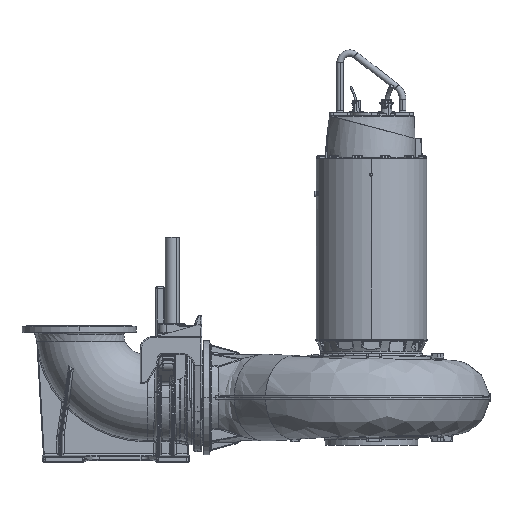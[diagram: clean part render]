
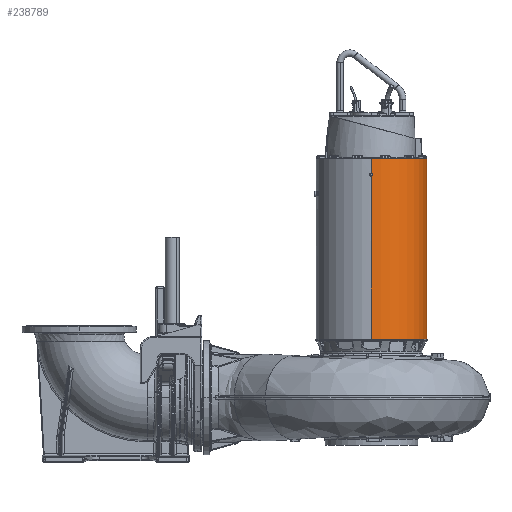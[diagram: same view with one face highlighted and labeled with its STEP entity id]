
A CAD part, top view. The second image highlights one B-rep face of the part: STEP entity #238789.
In plain terms, the highlighted cylindrical face has radius 344 mm (diameter 688 mm), a partial arc.
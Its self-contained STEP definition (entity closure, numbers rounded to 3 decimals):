
#188 = ORIENTED_EDGE ( 'NONE', *, *, #38782, .T. ) ;
#3723 = EDGE_LOOP ( 'NONE', ( #36963, #5620, #152010, #188, #55342, #262730, #307131, #35356, #45264, #235392, #141255, #134005 ) ) ;
#4071 = DIRECTION ( 'NONE',  ( 0., -1., 0. ) ) ;
#5620 = ORIENTED_EDGE ( 'NONE', *, *, #142774, .T. ) ;
#6485 = LINE ( 'NONE', #28939, #73659 ) ;
#7946 = CARTESIAN_POINT ( 'NONE',  ( 0., 0., 344. ) ) ;
#12411 = EDGE_CURVE ( 'NONE', #55287, #132726, #120263, .T. ) ;
#17241 = CARTESIAN_POINT ( 'NONE',  ( 9.5, 1010.485, 343.869 ) ) ;
#24232 =( BOUNDED_CURVE ( )  B_SPLINE_CURVE ( 3, ( #293533, #117481, #318775, #168203 ),
 .UNSPECIFIED., .F., .F. ) 
 B_SPLINE_CURVE_WITH_KNOTS ( ( 4, 4 ),
 ( 1.543, 1.571 ),
 .UNSPECIFIED. ) 
 CURVE ( )  GEOMETRIC_REPRESENTATION_ITEM ( )  RATIONAL_B_SPLINE_CURVE ( ( 1., 1., 1., 1. ) ) 
 REPRESENTATION_ITEM ( '' )  );
#28939 = CARTESIAN_POINT ( 'NONE',  ( 0., 0., -344. ) ) ;
#29441 = CARTESIAN_POINT ( 'NONE',  ( 0., 0., 0. ) ) ;
#31435 = DIRECTION ( 'NONE',  ( 0., -1., 0. ) ) ;
#34219 =( BOUNDED_CURVE ( )  B_SPLINE_CURVE ( 3, ( #293747, #117684, #168404, #17241 ),
 .UNSPECIFIED., .F., .T. ) 
 B_SPLINE_CURVE_WITH_KNOTS ( ( 4, 4 ),
 ( 1.571, 1.598 ),
 .UNSPECIFIED. ) 
 CURVE ( )  GEOMETRIC_REPRESENTATION_ITEM ( )  RATIONAL_B_SPLINE_CURVE ( ( 1., 1., 1., 1. ) ) 
 REPRESENTATION_ITEM ( '' )  );
#35356 = ORIENTED_EDGE ( 'NONE', *, *, #127925, .F. ) ;
#36963 = ORIENTED_EDGE ( 'NONE', *, *, #180242, .T. ) ;
#38643 = CARTESIAN_POINT ( 'NONE',  ( 9.5, 1245.349, -343.869 ) ) ;
#38782 = EDGE_CURVE ( 'NONE', #258541, #272611, #236190, .T. ) ;
#42527 = CARTESIAN_POINT ( 'NONE',  ( 6.334, 997.687, -343.956 ) ) ;
#42961 = VECTOR ( 'NONE', #84644, 1000. ) ;
#45264 = ORIENTED_EDGE ( 'NONE', *, *, #193572, .F. ) ;
#47926 = CARTESIAN_POINT ( 'NONE',  ( 0., -20., 344. ) ) ;
#55287 = VERTEX_POINT ( 'NONE', #132977 ) ;
#55342 = ORIENTED_EDGE ( 'NONE', *, *, #126497, .T. ) ;
#64069 = DIRECTION ( 'NONE',  ( 0., -1., 0. ) ) ;
#66839 = VERTEX_POINT ( 'NONE', #146464 ) ;
#67911 = CARTESIAN_POINT ( 'NONE',  ( 3.167, 995.859, -344. ) ) ;
#73659 = VECTOR ( 'NONE', #81809, 1000. ) ;
#81809 = DIRECTION ( 'NONE',  ( 0., -1., 0. ) ) ;
#84644 = DIRECTION ( 'NONE',  ( 0., -1., 0. ) ) ;
#88822 = CARTESIAN_POINT ( 'NONE',  ( 9.5, 999.515, -343.869 ) ) ;
#89455 = CYLINDRICAL_SURFACE ( 'NONE', #171399, 344. ) ;
#90931 = DIRECTION ( 'NONE',  ( 0., -1., 0. ) ) ;
#113233 = CARTESIAN_POINT ( 'NONE',  ( 0., 0., 344. ) ) ;
#113389 = VERTEX_POINT ( 'NONE', #322804 ) ;
#117481 = CARTESIAN_POINT ( 'NONE',  ( 6.334, 997.687, 343.956 ) ) ;
#117684 = CARTESIAN_POINT ( 'NONE',  ( 3.167, 1014.141, 344. ) ) ;
#118711 = CARTESIAN_POINT ( 'NONE',  ( 0., 1105., 344. ) ) ;
#120263 = CIRCLE ( 'NONE', #221599, 344. ) ;
#125448 = DIRECTION ( 'NONE',  ( 0., -1., 0. ) ) ;
#126497 = EDGE_CURVE ( 'NONE', #272611, #113389, #24232, .T. ) ;
#127925 = EDGE_CURVE ( 'NONE', #284557, #55287, #179066, .T. ) ;
#130983 = DIRECTION ( 'NONE',  ( 0., 0., -1. ) ) ;
#131335 =( BOUNDED_CURVE ( )  B_SPLINE_CURVE ( 3, ( #261241, #286542, #311726, #161168 ),
 .UNSPECIFIED., .F., .T. ) 
 B_SPLINE_CURVE_WITH_KNOTS ( ( 4, 4 ),
 ( 1.571, 1.598 ),
 .UNSPECIFIED. ) 
 CURVE ( )  GEOMETRIC_REPRESENTATION_ITEM ( )  RATIONAL_B_SPLINE_CURVE ( ( 1., 1., 1., 1. ) ) 
 REPRESENTATION_ITEM ( '' )  );
#132726 = VERTEX_POINT ( 'NONE', #47926 ) ;
#132977 = CARTESIAN_POINT ( 'NONE',  ( 0., -20., -344. ) ) ;
#133765 = DIRECTION ( 'NONE',  ( 0., -1., 0. ) ) ;
#134005 = ORIENTED_EDGE ( 'NONE', *, *, #306902, .F. ) ;
#139722 = DIRECTION ( 'NONE',  ( 0., -1., 0. ) ) ;
#141255 = ORIENTED_EDGE ( 'NONE', *, *, #148126, .F. ) ;
#141668 = CARTESIAN_POINT ( 'NONE',  ( 0., 0., -344. ) ) ;
#142774 = EDGE_CURVE ( 'NONE', #248330, #171833, #306793, .T. ) ;
#146464 = CARTESIAN_POINT ( 'NONE',  ( 0., 1015.97, -344. ) ) ;
#148126 = EDGE_CURVE ( 'NONE', #66839, #222882, #131335, .T. ) ;
#151565 = CARTESIAN_POINT ( 'NONE',  ( 9.5, 999.515, 343.869 ) ) ;
#152010 = ORIENTED_EDGE ( 'NONE', *, *, #178536, .T. ) ;
#161168 = CARTESIAN_POINT ( 'NONE',  ( 9.5, 1010.485, -343.869 ) ) ;
#168203 = CARTESIAN_POINT ( 'NONE',  ( 0., 994.03, 344. ) ) ;
#168404 = CARTESIAN_POINT ( 'NONE',  ( 6.334, 1012.313, 343.956 ) ) ;
#171399 = AXIS2_PLACEMENT_3D ( 'NONE', #29441, #4071, #130983 ) ;
#171833 = VERTEX_POINT ( 'NONE', #184225 ) ;
#173075 = VECTOR ( 'NONE', #139722, 1000. ) ;
#177792 = EDGE_CURVE ( 'NONE', #222882, #254369, #292314, .T. ) ;
#178536 = EDGE_CURVE ( 'NONE', #171833, #258541, #34219, .T. ) ;
#179066 = LINE ( 'NONE', #141668, #304904 ) ;
#180242 = EDGE_CURVE ( 'NONE', #268146, #248330, #256722, .T. ) ;
#180765 = AXIS2_PLACEMENT_3D ( 'NONE', #182597, #31435, #207806 ) ;
#182597 = CARTESIAN_POINT ( 'NONE',  ( 0., 1105., 0. ) ) ;
#184106 = VECTOR ( 'NONE', #133765, 1000. ) ;
#184225 = CARTESIAN_POINT ( 'NONE',  ( 0., 1015.97, 344. ) ) ;
#191091 = CARTESIAN_POINT ( 'NONE',  ( 9.5, 1010.485, 343.869 ) ) ;
#192000 = LINE ( 'NONE', #7946, #184106 ) ;
#193572 = EDGE_CURVE ( 'NONE', #254369, #284557, #245428, .T. ) ;
#207806 = DIRECTION ( 'NONE',  ( 0., 0., -1. ) ) ;
#221599 = AXIS2_PLACEMENT_3D ( 'NONE', #276220, #125448, #301430 ) ;
#222882 = VERTEX_POINT ( 'NONE', #258378 ) ;
#225513 = VECTOR ( 'NONE', #64069, 1000. ) ;
#235392 = ORIENTED_EDGE ( 'NONE', *, *, #177792, .F. ) ;
#235601 = CARTESIAN_POINT ( 'NONE',  ( 9.5, 1245.349, 343.869 ) ) ;
#236190 = LINE ( 'NONE', #235601, #42961 ) ;
#238789 = ADVANCED_FACE ( 'NONE', ( #247201 ), #89455, .T. ) ;
#244225 = CARTESIAN_POINT ( 'NONE',  ( 0., 994.03, -344. ) ) ;
#245428 =( BOUNDED_CURVE ( )  B_SPLINE_CURVE ( 3, ( #268417, #42527, #67911, #244225 ),
 .UNSPECIFIED., .F., .F. ) 
 B_SPLINE_CURVE_WITH_KNOTS ( ( 4, 4 ),
 ( 1.543, 1.571 ),
 .UNSPECIFIED. ) 
 CURVE ( )  GEOMETRIC_REPRESENTATION_ITEM ( )  RATIONAL_B_SPLINE_CURVE ( ( 1., 1., 1., 1. ) ) 
 REPRESENTATION_ITEM ( '' )  );
#247201 = FACE_OUTER_BOUND ( 'NONE', #3723, .T. ) ;
#248330 = VERTEX_POINT ( 'NONE', #118711 ) ;
#250441 = CARTESIAN_POINT ( 'NONE',  ( 0., 1105., -344. ) ) ;
#254369 = VERTEX_POINT ( 'NONE', #88822 ) ;
#256722 = CIRCLE ( 'NONE', #180765, 344. ) ;
#258378 = CARTESIAN_POINT ( 'NONE',  ( 9.5, 1010.485, -343.869 ) ) ;
#258541 = VERTEX_POINT ( 'NONE', #191091 ) ;
#261241 = CARTESIAN_POINT ( 'NONE',  ( 0., 1015.97, -344. ) ) ;
#262730 = ORIENTED_EDGE ( 'NONE', *, *, #296955, .T. ) ;
#268146 = VERTEX_POINT ( 'NONE', #250441 ) ;
#268417 = CARTESIAN_POINT ( 'NONE',  ( 9.5, 999.515, -343.869 ) ) ;
#272611 = VERTEX_POINT ( 'NONE', #151565 ) ;
#276220 = CARTESIAN_POINT ( 'NONE',  ( 0., -20., 0. ) ) ;
#284557 = VERTEX_POINT ( 'NONE', #285405 ) ;
#285405 = CARTESIAN_POINT ( 'NONE',  ( 0., 994.03, -344. ) ) ;
#286542 = CARTESIAN_POINT ( 'NONE',  ( 3.167, 1014.141, -344. ) ) ;
#292314 = LINE ( 'NONE', #38643, #225513 ) ;
#293533 = CARTESIAN_POINT ( 'NONE',  ( 9.5, 999.515, 343.869 ) ) ;
#293747 = CARTESIAN_POINT ( 'NONE',  ( 0., 1015.97, 344. ) ) ;
#296955 = EDGE_CURVE ( 'NONE', #113389, #132726, #192000, .T. ) ;
#301430 = DIRECTION ( 'NONE',  ( 1., 0., 0. ) ) ;
#304904 = VECTOR ( 'NONE', #90931, 1000. ) ;
#306793 = LINE ( 'NONE', #113233, #173075 ) ;
#306902 = EDGE_CURVE ( 'NONE', #268146, #66839, #6485, .T. ) ;
#307131 = ORIENTED_EDGE ( 'NONE', *, *, #12411, .F. ) ;
#311726 = CARTESIAN_POINT ( 'NONE',  ( 6.334, 1012.313, -343.956 ) ) ;
#318775 = CARTESIAN_POINT ( 'NONE',  ( 3.167, 995.859, 344. ) ) ;
#322804 = CARTESIAN_POINT ( 'NONE',  ( 0., 994.03, 344. ) ) ;
